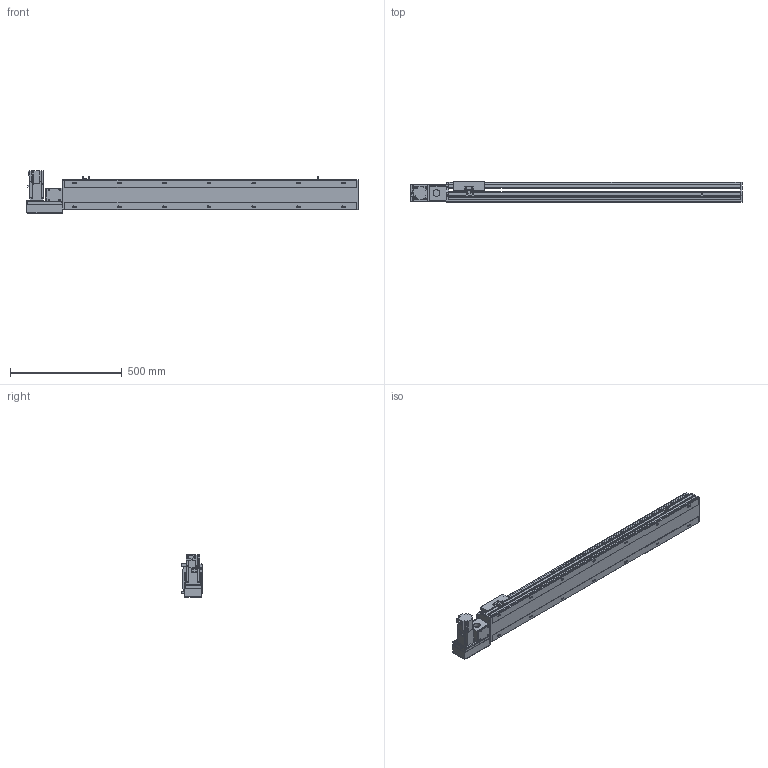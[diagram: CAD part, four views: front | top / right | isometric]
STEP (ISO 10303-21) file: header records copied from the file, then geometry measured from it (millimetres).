
FILE_DESCRIPTION( ( 'STEP AP214' ), '1' );
FILE_NAME( 'x:/temp/worker_6/temp/exporttempdir_5396_13_7A4EK/format_0/PBS140S-P40-S1050-L-T40-C1-N(0).stp', '2022-06-09T00:01:30', ( 'License CC BY-ND 4.0' ), ( 'CADENAS' ), ' ', 'PARTsolutions', ' ' );
FILE_SCHEMA( ( 'AUTOMOTIVE_DESIGN { 1 0 10303 214 1 1 1 1 }' ) );
Length unit declared in the file: millimetre
Products named in the file (7): PBS140S-P40-S1050-L-T40-C1-N(0); _PBS140S-S1050()_body; _PBS140ST-L_motors; _T40-p1; _PBS140S_sliser; _PBS140S_plant; _PBS140S_sensor
Assembly tree (8 placements, depth 2):
  PBS140S-P40-S1050-L-T40-C1-N(0)
    _PBS140S-S1050()_body
    _PBS140ST-L_motors
    _T40-p1
    _PBS140S_sliser
    _PBS140S_plant
    _PBS140S_sensor  x3
Bounding box: 1483 x 93 x 189.7 mm (x, y, z)
Volume: 7268613.9 mm3; surface area: 1255754.8 mm2
Topology: 8 solids, 8 shells, 1083 faces, 2871 edges, 1879 vertices
Faces by surface type: plane 696, cylinder 337, cone 40, sphere 8, torus 2
Full cylindrical faces by diameter (mm): 3.242 x4, 4 x2, 4.134 x4, 4.4 x8, 4.5 x2, 4.8 x4, 4.917 x22, 5.5 x7, 6 x2, 7 x16, 7.5 x8, 8 x12, 8.5 x4, 10.5 x14, 14 x1, 30 x2, 50 x2
Entity records: 39694 total; most frequent: CARTESIAN_POINT 6238, DIRECTION 5278, ORIENTED_EDGE 5002, EDGE_CURVE 2501, AXIS2_PLACEMENT_3D 1829, VERTEX_POINT 1729, LINE 1620, VECTOR 1620
